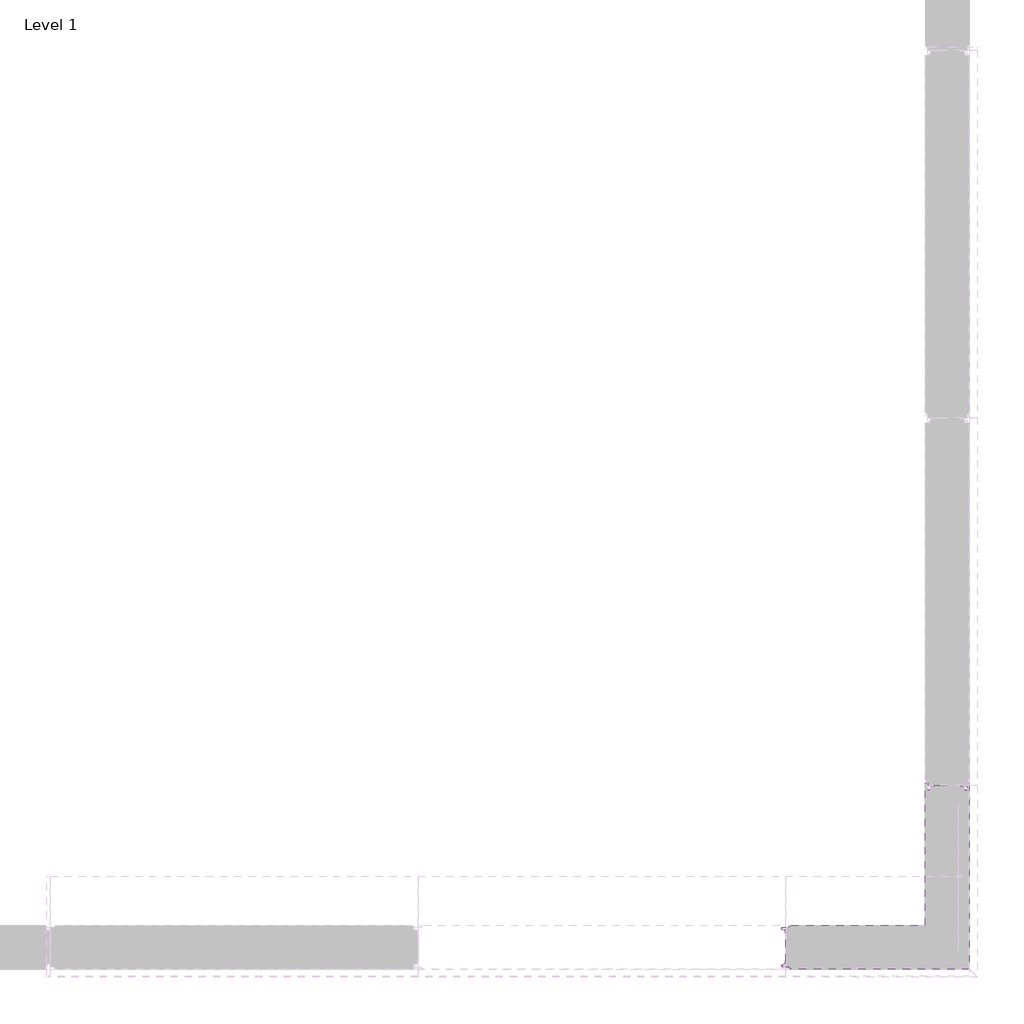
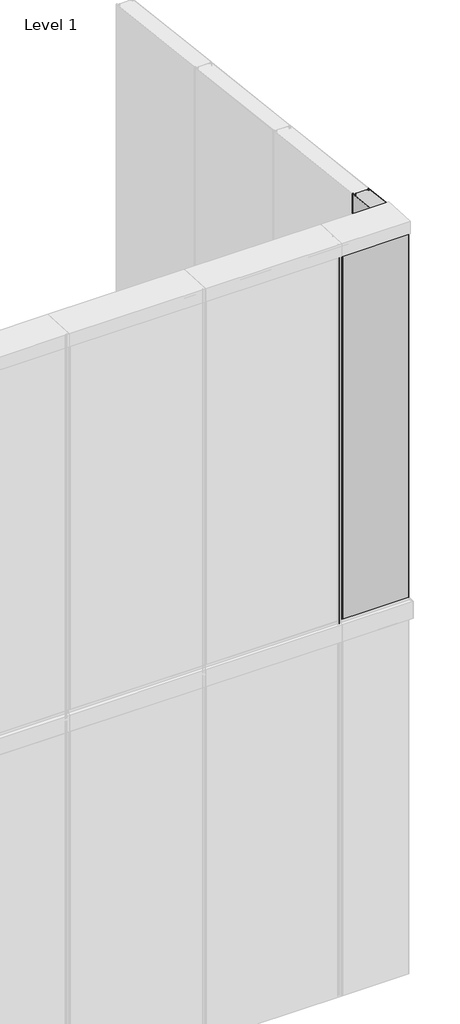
# One storey, part 6 of 16: 1 plate.
"""IFC4 building model written with IfcOpenShell, lengths in millimetres."""

from ifc_helpers import new_model, si_unit, point, frame, frame_2d, origin, place, context, project, spatial, polyline, circle_curve, ellipse_curve, trimmed, segment, composite_curve, outline, extrude, element, save
from ifc_brep_helpers import plane_surface, cylinder_surface, revolved_surface, advanced_brep

model = new_model("IFC4")

# Units and contexts
model_context = context("Model", 3, world=origin())
ifc_project = project(units=[si_unit("LENGTHUNIT", "METRE", prefix="MILLI")], contexts=[model_context])

# Site, building, storey
site = spatial("IfcSite", under=ifc_project)
building = spatial("IfcBuilding", under=site)
storey = spatial("IfcBuildingStorey", under=building, Name="Level 1", Elevation=0.0)

# Plate
placement = place(None, origin())
element("IfcPlate", 1, ObjectType="TR_C_V_FTV_Corner_Long_B : 120/RAL9006/RAL9002", at=placement, inside=storey, context=model_context, shape_type="SolidModel", body=[
    extrude(outline(composite_curve([segment(polyline([(-493.9155071, 4072.7199449), (-493.9155071, 4068.6069121), (-494.7155071, 4068.6069121), (-494.7155071, 4072.7199449)]), True, "CONTINUOUS"), segment(trimmed(circle_curve(frame_2d((-498.4655071, 4072.7199449)), 3.75), [point((-494.7155071, 4072.7199449))], [point((-497.8143265, 4076.412974))], True, "CARTESIAN"), True, "CONTINUOUS"), segment(polyline([(-497.8143265, 4076.412974), (-502.0298637, 4077.1562869)]), True, "CONTINUOUS"), segment(trimmed(circle_curve(frame_2d((-501.4655071, 4080.3569121)), 3.25), [point((-502.0298637, 4077.1562869))], [point((-501.4655071, 4083.6069121))], False, "CARTESIAN"), True, "CONTINUOUS"), segment(polyline([(-501.4655071, 4083.6069121), (-486.7155071, 4083.6069121)]), True, "CONTINUOUS"), segment(trimmed(circle_curve(frame_2d((-486.7155071, 4086.1069121)), 2.5), [point((-486.7155071, 4083.6069121))], [point((-484.9477402, 4084.3391452))], True, "CARTESIAN"), True, "CONTINUOUS"), segment(polyline([(-484.9477402, 4084.3391452), (-480.5586529, 4088.7282325)]), True, "CONTINUOUS"), segment(trimmed(circle_curve(frame_2d((-478.4373325, 4086.6069121)), 3.0), [point((-480.5586529, 4088.7282325))], [point((-478.4373325, 4089.6069121))], False, "CARTESIAN"), True, "CONTINUOUS"), segment(polyline([(-478.4373325, 4089.6069121), (-114.1155057, 4089.6069121), (-113.3155057, 4088.8069121), (-478.4373325, 4088.8069121)]), True, "CONTINUOUS"), segment(trimmed(circle_curve(frame_2d((-478.4373325, 4086.6069121)), 2.2), [point((-478.4373325, 4088.8069121))], [point((-479.9929674, 4088.162547))], True, "CARTESIAN"), True, "CONTINUOUS"), segment(polyline([(-479.9929674, 4088.162547), (-484.3820547, 4083.7734598)]), True, "CONTINUOUS"), segment(trimmed(circle_curve(frame_2d((-486.7155071, 4086.1069121)), 3.3), [point((-484.3820547, 4083.7734598))], [point((-486.7155071, 4082.8069121))], False, "CARTESIAN"), True, "CONTINUOUS"), segment(polyline([(-486.7155071, 4082.8069121), (-501.4655071, 4082.8069121)]), True, "CONTINUOUS"), segment(trimmed(circle_curve(frame_2d((-501.4655071, 4080.3569121)), 2.45), [point((-501.4655071, 4082.8069121))], [point((-501.8909452, 4077.9441331))], True, "CARTESIAN"), True, "CONTINUOUS"), segment(polyline([(-501.8909452, 4077.9441331), (-497.6754079, 4077.2008202)]), True, "CONTINUOUS"), segment(trimmed(circle_curve(frame_2d((-498.4655071, 4072.7199449)), 4.55), [point((-497.6754079, 4077.2008202))], [point((-493.9155071, 4072.7199449))], False, "CARTESIAN"), True, "CONTINUOUS")], self_intersect=False)), frame((0.0, 0.0, 3000.0), z_axis=(0.0, 0.0, 1.0), x_axis=(1.0, 0.0, 0.0)), (0.0, 0.0, 1.0), 2980.0),
    extrude(outline(composite_curve([segment(trimmed(circle_curve(frame_2d((-498.465507, 3986.4938794)), 4.55), [point((-493.915507, 3986.4938794))], [point((-497.6754078, 3982.0130041))], False, "CARTESIAN"), True, "CONTINUOUS"), segment(polyline([(-497.6754078, 3982.0130041), (-501.890945, 3981.2696911)]), True, "CONTINUOUS"), segment(trimmed(circle_curve(frame_2d((-501.465507, 3978.8569121)), 2.45), [point((-501.890945, 3981.2696911))], [point((-501.465507, 3976.4069121))], True, "CARTESIAN"), True, "CONTINUOUS"), segment(polyline([(-501.465507, 3976.4069121), (-486.715507, 3976.4069121)]), True, "CONTINUOUS"), segment(trimmed(circle_curve(frame_2d((-486.715507, 3973.1069121)), 3.3), [point((-486.715507, 3976.4069121))], [point((-484.3820546, 3975.4403645))], False, "CARTESIAN"), True, "CONTINUOUS"), segment(polyline([(-484.3820546, 3975.4403645), (-479.9929673, 3971.0512772)]), True, "CONTINUOUS"), segment(trimmed(circle_curve(frame_2d((-478.4373324, 3972.6069121)), 2.2), [point((-479.9929673, 3971.0512772))], [point((-478.4373324, 3970.4069121))], True, "CARTESIAN"), True, "CONTINUOUS"), segment(polyline([(-478.4373324, 3970.4069121), (5.0844943, 3970.4069121), (5.8844942, 3969.6069121), (-478.4373324, 3969.6069121)]), True, "CONTINUOUS"), segment(trimmed(circle_curve(frame_2d((-478.4373324, 3972.6069121)), 3.0), [point((-478.4373324, 3969.6069121))], [point((-480.5586527, 3970.4855918))], False, "CARTESIAN"), True, "CONTINUOUS"), segment(polyline([(-480.5586527, 3970.4855918), (-484.94774, 3974.8746791)]), True, "CONTINUOUS"), segment(trimmed(circle_curve(frame_2d((-486.715507, 3973.1069121)), 2.5), [point((-484.94774, 3974.8746791))], [point((-486.715507, 3975.6069121))], True, "CARTESIAN"), True, "CONTINUOUS"), segment(polyline([(-486.715507, 3975.6069121), (-501.465507, 3975.6069121)]), True, "CONTINUOUS"), segment(trimmed(circle_curve(frame_2d((-501.465507, 3978.8569121)), 3.25), [point((-501.465507, 3975.6069121))], [point((-502.0298635, 3982.0575373))], False, "CARTESIAN"), True, "CONTINUOUS"), segment(polyline([(-502.0298635, 3982.0575373), (-497.8143263, 3982.8008503)]), True, "CONTINUOUS"), segment(trimmed(circle_curve(frame_2d((-498.465507, 3986.4938794)), 3.75), [point((-497.8143263, 3982.8008503))], [point((-494.715507, 3986.4938794))], True, "CARTESIAN"), True, "CONTINUOUS"), segment(polyline([(-494.715507, 3986.4938794), (-494.715507, 3990.6069121), (-493.915507, 3990.6069121), (-493.915507, 3986.4938794)]), True, "CONTINUOUS")], self_intersect=False)), frame((0.0, 0.0, 3000.0), z_axis=(0.0, 0.0, 1.0), x_axis=(1.0, 0.0, 0.0)), (0.0, 0.0, 1.0), 2980.0),
    advanced_brep(
    [(5.0844943, 3970.4069121, 5980.0), (5.8844943, 3969.606912, 5980.0), (5.8844943, 4089.6069121, 5980.0), (5.0844943, 4089.6069121, 5980.0), (-11.7229468, 4468.006911, 3000.0), (-8.0299177, 4464.9080916, 3000.0), (-6.9630924, 4458.8578247, 3000.0), (-0.1155057, 4459.456911, 3000.0), (-0.1155057, 4477.056911, 3000.0), (3.2133526, 4478.4357692, 3000.0), (5.079038, 4476.5700838, 3000.0), (5.8844943, 4474.6255401, 3000.0), (5.8844943, 3969.606912, 3000.0), (5.0844943, 3970.4069121, 3000.0), (5.0844943, 4474.6255401, 3000.0), (4.5133526, 4476.0043983, 3000.0), (2.6476671, 4477.8700838, 3000.0), (0.6844943, 4477.056911, 3000.0), (0.6844943, 4459.456911, 3000.0), (-7.7509386, 4458.7189062, 3000.0), (-8.8177639, 4464.7691731, 3000.0), (-11.7229468, 4467.206911, 3000.0), (-15.1155057, 4467.206911, 3000.0), (-15.1155057, 4468.006911, 3000.0), (-15.1155057, 4468.006911, 5936.0000001), (-11.7229468, 4468.006911, 5936.0000001), (-15.1155057, 4467.206911, 5936.0930234), (-11.7229468, 4467.206911, 5936.0930234), (-8.8177639, 4464.7691731, 5936.3764813), (-7.7509386, 4458.7189062, 5937.0800007), (0.6844943, 4459.456911, 5936.9941862), (0.6844943, 4477.056911, 5934.9476746), (2.6476671, 4477.8700838, 5934.8531196), (4.5133526, 4476.0043983, 5935.0700597), (5.0844943, 4474.6255401, 5935.2303921), (5.8844943, 4474.6255401, 5935.2303921), (5.079038, 4476.5700838, 5935.0042824), (3.2133526, 4478.4357692, 5934.7873422), (-0.1155057, 4477.056911, 5934.9476746), (-0.1155057, 4459.456911, 5936.9941862), (-6.9630924, 4458.8578247, 5937.0638474), (-8.0299177, 4464.9080916, 5936.360328)],
    [
        (0, 1),
        (1, 2),
        (2, 3),
        (3, 0),
        (4, 5, circle_curve(frame((-11.7229468, 4464.256911, 3000.0), z_axis=(0.0, 0.0, -1.0), x_axis=(0.0, 1.0, 0.0)), 3.75)),
        (5, 6),
        (6, 7, circle_curve(frame((-3.5655057, 4459.456911, 3000.0), z_axis=(0.0, 0.0, 1.0), x_axis=(0.0, 1.0, 0.0)), 3.45)),
        (7, 8),
        (8, 9, circle_curve(frame((1.8344943, 4477.056911, 3000.0), z_axis=(0.0, 0.0, -1.0), x_axis=(0.0, 1.0, 0.0)), 1.95)),
        (9, 10),
        (10, 11, circle_curve(frame((3.1344943, 4474.6255401, 3000.0), z_axis=(0.0, 0.0, -1.0), x_axis=(0.0, 1.0, 0.0)), 2.75)),
        (11, 12),
        (12, 13),
        (13, 14),
        (14, 15, circle_curve(frame((3.1344943, 4474.6255401, 3000.0), z_axis=(0.0, 0.0, 1.0), x_axis=(0.0, 1.0, 0.0)), 1.95)),
        (15, 16),
        (16, 17, circle_curve(frame((1.8344943, 4477.056911, 3000.0), z_axis=(0.0, 0.0, 1.0), x_axis=(0.0, 1.0, 0.0)), 1.15)),
        (17, 18),
        (18, 19, circle_curve(frame((-3.5655057, 4459.456911, 3000.0), z_axis=(0.0, 0.0, -1.0), x_axis=(0.0, 1.0, 0.0)), 4.25)),
        (19, 20),
        (20, 21, circle_curve(frame((-11.7229468, 4464.256911, 3000.0), z_axis=(0.0, 0.0, 1.0), x_axis=(0.0, 1.0, 0.0)), 2.95)),
        (21, 22),
        (22, 23),
        (23, 4),
        (23, 24),
        (24, 25),
        (25, 4),
        (22, 26),
        (26, 24),
        (21, 27),
        (27, 26),
        (20, 28),
        (28, 27, ellipse_curve(frame((-11.7229468, 4464.256911, 5936.4360466), z_axis=(0.0, 0.1155008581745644, 0.9933073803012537), x_axis=(0.0, 0.9933073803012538, -0.11550085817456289)), 2.9698763, 2.95)),
        (19, 29),
        (29, 28),
        (18, 30),
        (30, 29, ellipse_curve(frame((-3.5655057, 4459.456911, 5936.9941862), z_axis=(0.0, -0.1155008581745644, -0.9933073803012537), x_axis=(0.0, -0.9933073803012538, 0.11550085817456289)), 4.2786353, 4.25)),
        (17, 31),
        (31, 30),
        (16, 32),
        (32, 31, ellipse_curve(frame((1.8344943, 4477.056911, 5934.9476746), z_axis=(0.0, 0.1155008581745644, 0.9933073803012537), x_axis=(0.0, 0.9933073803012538, -0.11550085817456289)), 1.1577484, 1.15)),
        (15, 33),
        (33, 32),
        (14, 34),
        (34, 33, ellipse_curve(frame((3.1344943, 4474.6255401, 5935.2303921), z_axis=(0.0, 0.1155008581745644, 0.9933073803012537), x_axis=(0.0, 0.9933073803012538, -0.11550085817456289)), 1.9631385, 1.95)),
        (13, 0),
        (3, 34),
        (12, 1),
        (11, 35),
        (35, 2),
        (10, 36),
        (36, 35, ellipse_curve(frame((3.1344943, 4474.6255401, 5935.2303921), z_axis=(0.0, -0.1155008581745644, -0.9933073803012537), x_axis=(0.0, -0.9933073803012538, 0.11550085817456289)), 2.7685287, 2.75)),
        (9, 37),
        (37, 36),
        (8, 38),
        (38, 37, ellipse_curve(frame((1.8344943, 4477.056911, 5934.9476746), z_axis=(0.0, -0.1155008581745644, -0.9933073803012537), x_axis=(0.0, -0.9933073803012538, 0.11550085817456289)), 1.9631385, 1.95)),
        (7, 39),
        (39, 38),
        (6, 40),
        (40, 39, ellipse_curve(frame((-3.5655057, 4459.456911, 5936.9941862), z_axis=(0.0, 0.1155008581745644, 0.9933073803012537), x_axis=(0.0, 0.9933073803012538, -0.11550085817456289)), 3.4732451, 3.45)),
        (5, 41),
        (41, 40),
        (25, 41, ellipse_curve(frame((-11.7229468, 4464.256911, 5936.4360466), z_axis=(0.0, -0.1155008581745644, -0.9933073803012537), x_axis=(0.0, -0.9933073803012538, 0.11550085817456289)), 3.7752664, 3.75)),
    ],
    [
        plane_surface(frame((-15.1155057, 4468.006911, 5980.0), z_axis=(0.0, 0.0, 1.0), x_axis=(-1.0, 0.0, 0.0))),
        plane_surface(frame((-15.1155057, 4468.006911, 3000.0), z_axis=(0.0, 0.0, -1.0), x_axis=(1.0, 0.0, 0.0))),
        plane_surface(frame((-11.7229468, 4468.006911, 5980.0), z_axis=(0.0, 1.0, 0.0), x_axis=(0.0, 0.0, -1.0))),
        plane_surface(frame((-15.1155057, 4468.006911, 5980.0), z_axis=(-1.0, 0.0, 0.0), x_axis=(0.0, 0.0, -1.0))),
        plane_surface(frame((-15.1155057, 4467.206911, 5980.0), z_axis=(0.0, -1.0, 0.0), x_axis=(0.0, 0.0, -1.0))),
        revolved_surface(polyline([(-11.7229468, 4467.206911, 3000.0), (-11.7229468, 4467.206911, 5936.779069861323)]), (-11.7229468, 4464.256911, 3000.0), (0.0, 0.0, -1.0)),
        plane_surface(frame((-8.8177639, 4464.7691731, 5980.0), z_axis=(-0.9848077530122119, -0.173648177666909, 0.0), x_axis=(0.0, 0.0, -1.0))),
        cylinder_surface(frame((-3.5655057, 4459.456911, 3000.0), z_axis=(0.0, 0.0, 1.0), x_axis=(0.0, 1.0, 0.0)), 4.25),
        plane_surface(frame((0.6844943, 4459.456911, 5980.0), z_axis=(1.0, 0.0, 0.0), x_axis=(0.0, 0.0, -1.0))),
        revolved_surface(polyline([(1.8344943, 4478.206910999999, 3000.0), (1.8344943, 4478.206910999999, 5935.081395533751)]), (1.8344943, 4477.056911, 3000.0), (0.0, 0.0, -1.0)),
        plane_surface(frame((2.6476671, 4477.8700838, 5980.0), z_axis=(-0.7071067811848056, -0.7071067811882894, 0.0), x_axis=(0.0, 0.0, -1.0))),
        revolved_surface(polyline([(3.1344943, 4476.5755401, 3000.0), (3.1344943, 4476.5755401, 5935.457136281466)]), (3.1344943, 4474.6255401, 3000.0), (0.0, 0.0, -1.0)),
        plane_surface(frame((5.0844943, 4474.6255401, 5980.0), z_axis=(-1.0, 0.0, 0.0), x_axis=(0.0, 0.0, -1.0))),
        plane_surface(frame((5.0844943, 3970.4069121, 5980.0), z_axis=(-0.7071068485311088, -0.7071067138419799, 0.0), x_axis=(0.0, 0.0, -1.0))),
        plane_surface(frame((5.8844943, 3969.606912, 5980.0), z_axis=(1.0, 0.0, 0.0), x_axis=(0.0, 0.0, -1.0))),
        cylinder_surface(frame((3.1344943, 4474.6255401, 3000.0), z_axis=(0.0, 0.0, 1.0), x_axis=(0.0, 1.0, 0.0)), 2.75),
        plane_surface(frame((5.079038, 4476.5700838, 5980.0), z_axis=(0.7071067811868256, 0.7071067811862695, 0.0), x_axis=(0.0, 0.0, -1.0))),
        cylinder_surface(frame((1.8344943, 4477.056911, 3000.0), z_axis=(0.0, 0.0, 1.0), x_axis=(0.0, 1.0, 0.0)), 1.95),
        plane_surface(frame((-0.1155057, 4477.056911, 5980.0), z_axis=(-1.0, 0.0, 0.0), x_axis=(0.0, 0.0, -1.0))),
        revolved_surface(polyline([(-3.5655057, 4462.906911, 3000.0), (-3.5655057, 4462.906911, 5937.3953489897)]), (-3.5655057, 4459.456911, 3000.0), (0.0, 0.0, -1.0)),
        plane_surface(frame((-6.9630924, 4458.8578247, 5980.0), z_axis=(0.9848077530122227, 0.17364817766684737, 0.0), x_axis=(0.0, 0.0, -1.0))),
        cylinder_surface(frame((-11.7229468, 4464.256911, 3000.0), z_axis=(0.0, 0.0, 1.0), x_axis=(0.0, 1.0, 0.0)), 3.75),
        plane_surface(frame((5.8844943, 6239.6069121, 5730.0), z_axis=(0.0, 0.1155008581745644, 0.9933073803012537), x_axis=(0.0, -0.9933073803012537, 0.1155008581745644))),
    ],
    [
        (0, [[1, 2, 3, 4]]),
        (1, [[5, 6, 7, 8, 9, 10, 11, 12, 13, 14, 15, 16, 17, 18, 19, 20, 21, 22, 23, 24]]),
        (2, [[-24, 25, 26, 27]]),
        (3, [[-23, 28, 29, -25]]),
        (4, [[-22, 30, 31, -28]]),
        (5, [[-21, 32, 33, -30]]),
        (6, [[-20, 34, 35, -32]]),
        (7, [[-19, 36, 37, -34]]),
        (8, [[-18, 38, 39, -36]]),
        (9, [[-17, 40, 41, -38]]),
        (10, [[-16, 42, 43, -40]]),
        (11, [[-15, 44, 45, -42]]),
        (12, [[-14, 46, -4, 47, -44]]),
        (13, [[-1, -46, -13, 48]]),
        (14, [[-12, 49, 50, -2, -48]]),
        (15, [[-11, 51, 52, -49]]),
        (16, [[-10, 53, 54, -51]]),
        (17, [[-9, 55, 56, -53]]),
        (18, [[-8, 57, 58, -55]]),
        (19, [[-7, 59, 60, -57]]),
        (20, [[-6, 61, 62, -59]]),
        (21, [[-5, -27, 63, -61]]),
        (22, [[-3, -50, -52, -54, -56, -58, -60, -62, -63, -26, -29, -31, -33, -35, -37, -39, -41, -43, -45, -47]]),
    ],
),
    advanced_brep(
    [(-114.1155057, 4089.6069121, 5980.0), (-113.3155057, 4088.8069121, 5980.0), (-113.3155057, 4089.6069121, 5980.0), (-96.5080645, 4468.006911, 3000.0), (-93.1155057, 4468.006911, 3000.0), (-93.1155057, 4467.206911, 3000.0), (-96.5080645, 4467.206911, 3000.0), (-99.4132474, 4464.7691731, 3000.0), (-100.4800727, 4458.7189062, 3000.0), (-108.9155057, 4459.456911, 3000.0), (-108.9155057, 4477.056911, 3000.0), (-110.8786785, 4477.8700838, 3000.0), (-112.7443639, 4476.0043983, 3000.0), (-113.3155057, 4474.6255401, 3000.0), (-113.3155057, 4088.8069121, 3000.0), (-114.1155057, 4089.6069121, 3000.0), (-114.1155057, 4474.6255401, 3000.0), (-113.3100493, 4476.5700838, 3000.0), (-111.4443639, 4478.4357692, 3000.0), (-108.1155057, 4477.056911, 3000.0), (-108.1155057, 4459.456911, 3000.0), (-101.2679189, 4458.8578247, 3000.0), (-100.2010936, 4464.9080916, 3000.0), (-100.2010936, 4464.9080916, 5936.360328), (-96.5080645, 4468.006911, 5936.0000001), (-101.2679189, 4458.8578247, 5937.0638474), (-108.1155057, 4459.456911, 5936.9941862), (-108.1155057, 4477.056911, 5934.9476746), (-111.4443639, 4478.4357692, 5934.7873422), (-113.3100493, 4476.5700838, 5935.0042824), (-114.1155057, 4474.6255401, 5935.2303921), (-113.3155057, 4474.6255401, 5935.2303921), (-112.7443639, 4476.0043983, 5935.0700597), (-110.8786785, 4477.8700838, 5934.8531196), (-108.9155057, 4477.056911, 5934.9476746), (-108.9155057, 4459.456911, 5936.9941862), (-100.4800727, 4458.7189062, 5937.0800007), (-99.4132474, 4464.7691731, 5936.3764813), (-96.5080645, 4467.206911, 5936.0930234), (-93.1155057, 4467.206911, 5936.0930234), (-93.1155057, 4468.006911, 5936.0000001)],
    [
        (0, 1),
        (1, 2),
        (2, 0),
        (3, 4),
        (4, 5),
        (5, 6),
        (6, 7, circle_curve(frame((-96.5080645, 4464.256911, 3000.0), z_axis=(0.0, 0.0, 1.0), x_axis=(0.0, 1.0, 0.0)), 2.95)),
        (7, 8),
        (8, 9, circle_curve(frame((-104.6655057, 4459.456911, 3000.0), z_axis=(0.0, 0.0, -1.0), x_axis=(0.0, 1.0, 0.0)), 4.25)),
        (9, 10),
        (10, 11, circle_curve(frame((-110.0655057, 4477.056911, 3000.0), z_axis=(0.0, 0.0, 1.0), x_axis=(0.0, 1.0, 0.0)), 1.15)),
        (11, 12),
        (12, 13, circle_curve(frame((-111.3655057, 4474.6255401, 3000.0), z_axis=(0.0, 0.0, 1.0), x_axis=(0.0, 1.0, 0.0)), 1.95)),
        (13, 14),
        (14, 15),
        (15, 16),
        (16, 17, circle_curve(frame((-111.3655057, 4474.6255401, 3000.0), z_axis=(0.0, 0.0, -1.0), x_axis=(0.0, 1.0, 0.0)), 2.75)),
        (17, 18),
        (18, 19, circle_curve(frame((-110.0655057, 4477.056911, 3000.0), z_axis=(0.0, 0.0, -1.0), x_axis=(0.0, 1.0, 0.0)), 1.95)),
        (19, 20),
        (20, 21, circle_curve(frame((-104.6655057, 4459.456911, 3000.0), z_axis=(0.0, 0.0, 1.0), x_axis=(0.0, 1.0, 0.0)), 3.45)),
        (21, 22),
        (22, 3, circle_curve(frame((-96.5080645, 4464.256911, 3000.0), z_axis=(0.0, 0.0, -1.0), x_axis=(0.0, 1.0, 0.0)), 3.75)),
        (22, 23),
        (23, 24, ellipse_curve(frame((-96.5080645, 4464.256911, 5936.4360466), z_axis=(0.0, -0.1155008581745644, -0.9933073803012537), x_axis=(0.0, -0.9933073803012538, 0.11550085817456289)), 3.7752664, 3.75)),
        (24, 3),
        (21, 25),
        (25, 23),
        (20, 26),
        (26, 25, ellipse_curve(frame((-104.6655057, 4459.456911, 5936.9941862), z_axis=(0.0, 0.1155008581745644, 0.9933073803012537), x_axis=(0.0, 0.9933073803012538, -0.11550085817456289)), 3.4732451, 3.45)),
        (19, 27),
        (27, 26),
        (18, 28),
        (28, 27, ellipse_curve(frame((-110.0655057, 4477.056911, 5934.9476746), z_axis=(0.0, -0.1155008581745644, -0.9933073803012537), x_axis=(0.0, -0.9933073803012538, 0.11550085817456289)), 1.9631385, 1.95)),
        (17, 29),
        (29, 28),
        (16, 30),
        (30, 29, ellipse_curve(frame((-111.3655057, 4474.6255401, 5935.2303921), z_axis=(0.0, -0.1155008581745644, -0.9933073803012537), x_axis=(0.0, -0.9933073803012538, 0.11550085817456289)), 2.7685287, 2.75)),
        (15, 0),
        (0, 30),
        (14, 1),
        (13, 31),
        (31, 2),
        (12, 32),
        (32, 31, ellipse_curve(frame((-111.3655057, 4474.6255401, 5935.2303921), z_axis=(0.0, 0.1155008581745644, 0.9933073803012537), x_axis=(0.0, 0.9933073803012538, -0.11550085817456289)), 1.9631385, 1.95)),
        (11, 33),
        (33, 32),
        (10, 34),
        (34, 33, ellipse_curve(frame((-110.0655057, 4477.056911, 5934.9476746), z_axis=(0.0, 0.1155008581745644, 0.9933073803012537), x_axis=(0.0, 0.9933073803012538, -0.11550085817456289)), 1.1577484, 1.15)),
        (9, 35),
        (35, 34),
        (8, 36),
        (36, 35, ellipse_curve(frame((-104.6655057, 4459.456911, 5936.9941862), z_axis=(0.0, -0.1155008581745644, -0.9933073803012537), x_axis=(0.0, -0.9933073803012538, 0.11550085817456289)), 4.2786353, 4.25)),
        (7, 37),
        (37, 36),
        (6, 38),
        (38, 37, ellipse_curve(frame((-96.5080645, 4464.256911, 5936.4360466), z_axis=(0.0, 0.1155008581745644, 0.9933073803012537), x_axis=(0.0, 0.9933073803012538, -0.11550085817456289)), 2.9698763, 2.95)),
        (5, 39),
        (39, 38),
        (4, 40),
        (40, 39),
        (24, 40),
    ],
    [
        plane_surface(frame((-96.5080645, 4468.006911, 5980.0), z_axis=(0.0, 0.0, 1.0), x_axis=(-1.0, 0.0, 0.0))),
        plane_surface(frame((-96.5080645, 4468.006911, 3000.0), z_axis=(0.0, 0.0, -1.0), x_axis=(1.0, 0.0, 0.0))),
        cylinder_surface(frame((-96.5080645, 4464.256911, 3000.0), z_axis=(0.0, 0.0, 1.0), x_axis=(0.0, 1.0, 0.0)), 3.75),
        plane_surface(frame((-100.2010936, 4464.9080916, 5980.0), z_axis=(-0.9848077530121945, 0.17364817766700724, 0.0), x_axis=(0.0, 0.0, -1.0))),
        revolved_surface(polyline([(-104.6655057, 4462.906911, 3000.0), (-104.6655057, 4462.906911, 5937.3953489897)]), (-104.6655057, 4459.456911, 3000.0), (0.0, 0.0, -1.0)),
        plane_surface(frame((-108.1155057, 4459.456911, 5980.0), z_axis=(1.0, 0.0, 0.0), x_axis=(0.0, 0.0, -1.0))),
        cylinder_surface(frame((-110.0655057, 4477.056911, 3000.0), z_axis=(0.0, 0.0, 1.0), x_axis=(0.0, 1.0, 0.0)), 1.95),
        plane_surface(frame((-111.4443639, 4478.4357692, 5980.0), z_axis=(-0.707106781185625, 0.7071067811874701, 0.0), x_axis=(0.0, 0.0, -1.0))),
        cylinder_surface(frame((-111.3655057, 4474.6255401, 3000.0), z_axis=(0.0, 0.0, 1.0), x_axis=(0.0, 1.0, 0.0)), 2.75),
        plane_surface(frame((-114.1155057, 4474.6255401, 5980.0), z_axis=(-1.0, 0.0, 0.0), x_axis=(0.0, 0.0, -1.0))),
        plane_surface(frame((-114.1155057, 4089.6069121, 5980.0), z_axis=(-0.7071067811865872, -0.7071067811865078, 0.0), x_axis=(0.0, 0.0, -1.0))),
        plane_surface(frame((-113.3155057, 4088.8069121, 5980.0), z_axis=(1.0, 0.0, 0.0), x_axis=(0.0, 0.0, -1.0))),
        revolved_surface(polyline([(-111.3655057, 4476.5755401, 3000.0), (-111.3655057, 4476.5755401, 5935.457136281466)]), (-111.3655057, 4474.6255401, 3000.0), (0.0, 0.0, -1.0)),
        plane_surface(frame((-112.7443639, 4476.0043983, 5980.0), z_axis=(0.7071067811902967, -0.7071067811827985, 0.0), x_axis=(0.0, 0.0, -1.0))),
        revolved_surface(polyline([(-110.0655057, 4478.206910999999, 3000.0), (-110.0655057, 4478.206910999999, 5935.081395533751)]), (-110.0655057, 4477.056911, 3000.0), (0.0, 0.0, -1.0)),
        plane_surface(frame((-108.9155057, 4477.056911, 5980.0), z_axis=(-1.0, 0.0, 0.0), x_axis=(0.0, 0.0, -1.0))),
        cylinder_surface(frame((-104.6655057, 4459.456911, 3000.0), z_axis=(0.0, 0.0, 1.0), x_axis=(0.0, 1.0, 0.0)), 4.25),
        plane_surface(frame((-100.4800727, 4458.7189062, 5980.0), z_axis=(0.9848077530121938, -0.17364817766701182, 0.0), x_axis=(0.0, 0.0, -1.0))),
        revolved_surface(polyline([(-96.5080645, 4467.206911, 3000.0), (-96.5080645, 4467.206911, 5936.779069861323)]), (-96.5080645, 4464.256911, 3000.0), (0.0, 0.0, -1.0)),
        plane_surface(frame((-96.5080645, 4467.206911, 5980.0), z_axis=(0.0, -1.0, 0.0), x_axis=(0.0, 0.0, -1.0))),
        plane_surface(frame((-93.1155057, 4467.206911, 5980.0), z_axis=(1.0, 0.0, 0.0), x_axis=(0.0, 0.0, -1.0))),
        plane_surface(frame((-93.1155057, 4468.006911, 5980.0), z_axis=(0.0, 1.0, 0.0), x_axis=(0.0, 0.0, -1.0))),
        plane_surface(frame((5.8844943, 6239.6069121, 5730.0), z_axis=(0.0, 0.1155008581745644, 0.9933073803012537), x_axis=(0.0, -0.9933073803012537, 0.1155008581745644))),
    ],
    [
        (0, [[1, 2, 3]]),
        (1, [[4, 5, 6, 7, 8, 9, 10, 11, 12, 13, 14, 15, 16, 17, 18, 19, 20, 21, 22, 23]]),
        (2, [[-23, 24, 25, 26]]),
        (3, [[-22, 27, 28, -24]]),
        (4, [[-21, 29, 30, -27]]),
        (5, [[-20, 31, 32, -29]]),
        (6, [[-19, 33, 34, -31]]),
        (7, [[-18, 35, 36, -33]]),
        (8, [[-17, 37, 38, -35]]),
        (9, [[-16, 39, 40, -37]]),
        (10, [[-1, -39, -15, 41]]),
        (11, [[-14, 42, 43, -2, -41]]),
        (12, [[-13, 44, 45, -42]]),
        (13, [[-12, 46, 47, -44]]),
        (14, [[-11, 48, 49, -46]]),
        (15, [[-10, 50, 51, -48]]),
        (16, [[-9, 52, 53, -50]]),
        (17, [[-8, 54, 55, -52]]),
        (18, [[-7, 56, 57, -54]]),
        (19, [[-6, 58, 59, -56]]),
        (20, [[-5, 60, 61, -58]]),
        (21, [[-4, -26, 62, -60]]),
        (22, [[-3, -43, -45, -47, -49, -51, -53, -55, -57, -59, -61, -62, -25, -28, -30, -32, -34, -36, -38, -40]]),
    ],
),
    extrude(outline(composite_curve([segment(polyline([(-494.1155061, 3976.4069121), (-494.1155061, 4082.8069121), (-486.715507, 4082.8069121)]), True, "CONTINUOUS"), segment(trimmed(circle_curve(frame_2d((-486.715507, 4086.1069121)), 3.3), [point((-486.715507, 4082.8069121))], [point((-484.3820546, 4083.7734598))], True, "CARTESIAN"), True, "CONTINUOUS"), segment(polyline([(-484.3820546, 4083.7734598), (-479.9929673, 4088.162547)]), True, "CONTINUOUS"), segment(trimmed(circle_curve(frame_2d((-478.4373324, 4086.6069121)), 2.2), [point((-479.9929673, 4088.162547))], [point((-478.4373324, 4088.8069121))], False, "CARTESIAN"), True, "CONTINUOUS"), segment(polyline([(-478.4373324, 4088.8069121), (-113.3155057, 4088.8069121), (5.0844943, 3970.4069121), (-478.4373324, 3970.4069121)]), True, "CONTINUOUS"), segment(trimmed(circle_curve(frame_2d((-478.4373324, 3972.6069121)), 2.2), [point((-478.4373324, 3970.4069121))], [point((-479.9929673, 3971.0512772))], False, "CARTESIAN"), True, "CONTINUOUS"), segment(polyline([(-479.9929673, 3971.0512772), (-484.3820546, 3975.4403645)]), True, "CONTINUOUS"), segment(trimmed(circle_curve(frame_2d((-486.715507, 3973.1069121)), 3.3), [point((-484.3820546, 3975.4403645))], [point((-486.715507, 3976.4069121))], True, "CARTESIAN"), True, "CONTINUOUS"), segment(polyline([(-486.715507, 3976.4069121), (-494.1155061, 3976.4069121)]), True, "CONTINUOUS")], self_intersect=False)), frame((0.0, 0.0, 3000.0), z_axis=(0.0, 0.0, 1.0), x_axis=(1.0, 0.0, 0.0)), (0.0, 0.0, 1.0), 2980.0),
    advanced_brep(
    [(-113.3155057, 4088.8069121, 5980.0), (5.0844943, 3970.4069121, 5980.0), (5.0844943, 4089.6069121, 5980.0), (-113.3155057, 4089.6069121, 5980.0), (5.0844943, 3970.4069121, 3000.0), (-113.3155057, 4088.8069121, 3000.0), (-113.3155057, 4455.206911, 3000.0), (-104.6655057, 4455.206911, 3000.0), (-100.4800727, 4458.7189062, 3000.0), (-99.4132474, 4464.7691731, 3000.0), (-96.5080645, 4467.206911, 3000.0), (-90.4155057, 4467.206911, 3000.0), (-90.4155057, 4469.6069121, 3000.0), (-17.8155057, 4469.6069121, 3000.0), (-17.8155057, 4467.206911, 3000.0), (-11.7229468, 4467.206911, 3000.0), (-8.8177639, 4464.7691731, 3000.0), (-7.7509386, 4458.7189062, 3000.0), (-3.5655057, 4455.206911, 3000.0), (5.0844943, 4455.206911, 3000.0), (-113.3155057, 4455.206911, 5937.4883722), (5.0844943, 4455.206911, 5937.4883722), (-3.5655057, 4455.206911, 5937.4883722), (-7.7509386, 4458.7189062, 5937.0800007), (-8.8177639, 4464.7691731, 5936.3764813), (-11.7229468, 4467.206911, 5936.0930234), (-17.8155057, 4467.206911, 5936.0930234), (-17.8155057, 4469.6069121, 5935.8139535), (-90.4155057, 4469.6069121, 5935.8139535), (-90.4155057, 4467.206911, 5936.0930234), (-96.5080645, 4467.206911, 5936.0930234), (-99.4132474, 4464.7691731, 5936.3764813), (-100.4800727, 4458.7189062, 5937.0800007), (-104.6655057, 4455.206911, 5937.4883722)],
    [
        (0, 1),
        (1, 2),
        (2, 3),
        (3, 0),
        (4, 5),
        (5, 6),
        (6, 7),
        (7, 8, circle_curve(frame((-104.6655057, 4459.456911, 3000.0), z_axis=(0.0, 0.0, 1.0), x_axis=(1.0, 0.0, 0.0)), 4.25)),
        (8, 9),
        (9, 10, circle_curve(frame((-96.5080645, 4464.256911, 3000.0), z_axis=(0.0, 0.0, -1.0), x_axis=(1.0, 0.0, 0.0)), 2.95)),
        (10, 11),
        (11, 12),
        (12, 13),
        (13, 14),
        (14, 15),
        (15, 16, circle_curve(frame((-11.7229468, 4464.256911, 3000.0), z_axis=(0.0, 0.0, -1.0), x_axis=(1.0, 0.0, 0.0)), 2.95)),
        (16, 17),
        (17, 18, circle_curve(frame((-3.5655057, 4459.456911, 3000.0), z_axis=(0.0, 0.0, 1.0), x_axis=(1.0, 0.0, 0.0)), 4.25)),
        (18, 19),
        (19, 4),
        (5, 0),
        (3, 20),
        (20, 6),
        (4, 1),
        (19, 21),
        (21, 2),
        (18, 22),
        (22, 21),
        (17, 23),
        (23, 22, ellipse_curve(frame((-3.5655057, 4459.456911, 5936.9941862), z_axis=(0.0, 0.1155008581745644, 0.9933073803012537), x_axis=(0.0, 0.9933073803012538, -0.11550085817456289)), 4.2786353, 4.25)),
        (16, 24),
        (24, 23),
        (15, 25),
        (25, 24, ellipse_curve(frame((-11.7229468, 4464.256911, 5936.4360466), z_axis=(0.0, -0.1155008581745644, -0.9933073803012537), x_axis=(0.0, -0.9933073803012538, 0.11550085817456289)), 2.9698763, 2.95)),
        (14, 26),
        (26, 25),
        (13, 27),
        (27, 26),
        (12, 28),
        (28, 27),
        (11, 29),
        (29, 28),
        (10, 30),
        (30, 29),
        (9, 31),
        (31, 30, ellipse_curve(frame((-96.5080645, 4464.256911, 5936.4360466), z_axis=(0.0, -0.1155008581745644, -0.9933073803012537), x_axis=(0.0, -0.9933073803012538, 0.11550085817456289)), 2.9698763, 2.95)),
        (8, 32),
        (32, 31),
        (7, 33),
        (33, 32, ellipse_curve(frame((-104.6655057, 4459.456911, 5936.9941862), z_axis=(0.0, 0.1155008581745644, 0.9933073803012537), x_axis=(0.0, 0.9933073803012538, -0.11550085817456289)), 4.2786353, 4.25)),
        (20, 33),
    ],
    [
        plane_surface(frame((5.0844943, 4455.206911, 5980.0), z_axis=(0.0, 0.0, 1.0), x_axis=(0.0, 1.0, 0.0))),
        plane_surface(frame((5.0844943, 4455.206911, 3000.0), z_axis=(0.0, 0.0, -1.0), x_axis=(0.0, -1.0, 0.0))),
        plane_surface(frame((-113.3155057, 4455.206911, 5980.0), z_axis=(-1.0, 0.0, 0.0), x_axis=(0.0, 0.0, -1.0))),
        plane_surface(frame((-113.3155057, 4088.8069121, 5980.0), z_axis=(-0.7071067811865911, -0.7071067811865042, 0.0), x_axis=(0.0, 0.0, -1.0))),
        plane_surface(frame((5.0844943, 3970.4069121, 5980.0), z_axis=(1.0, 0.0, 0.0), x_axis=(0.0, 0.0, -1.0))),
        plane_surface(frame((5.0844943, 4455.206911, 5980.0), z_axis=(0.0, 1.0, 0.0), x_axis=(0.0, 0.0, -1.0))),
        revolved_surface(polyline([(0.6844942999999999, 4459.456911, 3000.0), (0.6844942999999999, 4459.456911, 5937.488372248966)]), (-3.5655057, 4459.456911, 3000.0), (0.0, 0.0, -1.0)),
        plane_surface(frame((-7.7509386, 4458.7189062, 5980.0), z_axis=(0.9848077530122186, 0.1736481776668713, 0.0), x_axis=(0.0, 0.0, -1.0))),
        cylinder_surface(frame((-11.7229468, 4464.256911, 3000.0), z_axis=(0.0, 0.0, 1.0), x_axis=(1.0, 0.0, 0.0)), 2.95),
        plane_surface(frame((-11.7229468, 4467.206911, 5980.0), z_axis=(0.0, 1.0, 0.0), x_axis=(0.0, 0.0, -1.0))),
        plane_surface(frame((-17.8155057, 4467.206911, 5980.0), z_axis=(1.0, 0.0, 0.0), x_axis=(0.0, 0.0, -1.0))),
        plane_surface(frame((-17.8155057, 4469.6069121, 5980.0), z_axis=(0.0, 1.0, 0.0), x_axis=(0.0, 0.0, -1.0))),
        plane_surface(frame((-90.4155057, 4469.6069121, 5980.0), z_axis=(-1.0, 0.0, 0.0), x_axis=(0.0, 0.0, -1.0))),
        plane_surface(frame((-90.4155057, 4467.206911, 5980.0), z_axis=(0.0, 1.0, 0.0), x_axis=(0.0, 0.0, -1.0))),
        cylinder_surface(frame((-96.5080645, 4464.256911, 3000.0), z_axis=(0.0, 0.0, 1.0), x_axis=(1.0, 0.0, 0.0)), 2.95),
        plane_surface(frame((-99.4132474, 4464.7691731, 5980.0), z_axis=(-0.9848077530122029, 0.17364817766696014, 0.0), x_axis=(0.0, 0.0, -1.0))),
        revolved_surface(polyline([(-100.4155057, 4459.456911, 3000.0), (-100.4155057, 4459.456911, 5937.488372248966)]), (-104.6655057, 4459.456911, 3000.0), (0.0, 0.0, -1.0)),
        plane_surface(frame((-104.6655057, 4455.206911, 5980.0), z_axis=(0.0, 1.0, 0.0), x_axis=(0.0, 0.0, -1.0))),
        plane_surface(frame((5.8844943, 6239.6069121, 5730.0), z_axis=(0.0, 0.1155008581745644, 0.9933073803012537), x_axis=(0.0, -0.9933073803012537, 0.1155008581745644))),
    ],
    [
        (0, [[1, 2, 3, 4]]),
        (1, [[5, 6, 7, 8, 9, 10, 11, 12, 13, 14, 15, 16, 17, 18, 19, 20]]),
        (2, [[-6, 21, -4, 22, 23]]),
        (3, [[-1, -21, -5, 24]]),
        (4, [[-20, 25, 26, -2, -24]]),
        (5, [[-19, 27, 28, -25]]),
        (6, [[-18, 29, 30, -27]]),
        (7, [[-17, 31, 32, -29]]),
        (8, [[-16, 33, 34, -31]]),
        (9, [[-15, 35, 36, -33]]),
        (10, [[-14, 37, 38, -35]]),
        (11, [[-13, 39, 40, -37]]),
        (12, [[-12, 41, 42, -39]]),
        (13, [[-11, 43, 44, -41]]),
        (14, [[-10, 45, 46, -43]]),
        (15, [[-9, 47, 48, -45]]),
        (16, [[-8, 49, 50, -47]]),
        (17, [[-7, -23, 51, -49]]),
        (18, [[-3, -26, -28, -30, -32, -34, -36, -38, -40, -42, -44, -46, -48, -50, -51, -22]]),
    ],
),
])

save(model, "model.ifc")
